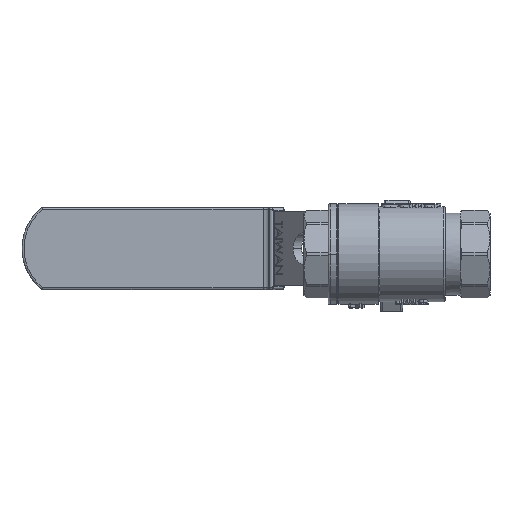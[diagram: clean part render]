
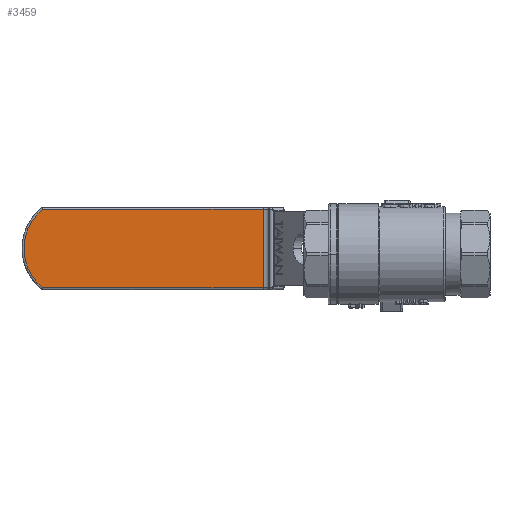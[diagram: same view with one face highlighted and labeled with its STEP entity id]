
A CAD part, front view. The second image highlights one B-rep face of the part: STEP entity #3459.
In plain terms, the highlighted planar face has unit normal (0, -1, 0).
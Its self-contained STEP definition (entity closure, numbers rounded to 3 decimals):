
#1959 = CARTESIAN_POINT ( 'NONE',  ( -4.515, -4., -10.5 ) ) ;
#2589 = LINE ( 'NONE', #52663, #45390 ) ;
#3459 = ADVANCED_FACE ( 'NONE', ( #7029 ), #67454, .F. ) ;
#5591 = EDGE_CURVE ( 'NONE', #31950, #50420, #55241, .T. ) ;
#7029 = FACE_OUTER_BOUND ( 'NONE', #87691, .T. ) ;
#7358 = AXIS2_PLACEMENT_3D ( 'NONE', #80922, #26892, #33778 ) ;
#7557 = DIRECTION ( 'NONE',  ( -1., 0., 0. ) ) ;
#8004 = AXIS2_PLACEMENT_3D ( 'NONE', #26008, #67173, #33181 ) ;
#8118 = CARTESIAN_POINT ( 'NONE',  ( -63.662, -4., 10. ) ) ;
#8981 = EDGE_CURVE ( 'NONE', #57398, #37674, #35876, .T. ) ;
#15329 = CARTESIAN_POINT ( 'NONE',  ( -63.662, -4., 10.5 ) ) ;
#20100 = CARTESIAN_POINT ( 'NONE',  ( -4.515, -4., 10.5 ) ) ;
#24079 = VECTOR ( 'NONE', #35656, 1000. ) ;
#26008 = CARTESIAN_POINT ( 'NONE',  ( -13., -4., 0. ) ) ;
#26892 = DIRECTION ( 'NONE',  ( 0., 1., 0. ) ) ;
#31950 = VERTEX_POINT ( 'NONE', #1959 ) ;
#33181 = DIRECTION ( 'NONE',  ( 0., 0., 1. ) ) ;
#33778 = DIRECTION ( 'NONE',  ( 0., 0., 1. ) ) ;
#34684 = ORIENTED_EDGE ( 'NONE', *, *, #44022, .T. ) ;
#35656 = DIRECTION ( 'NONE',  ( 0., 0., -1. ) ) ;
#35876 = LINE ( 'NONE', #8118, #24079 ) ;
#37674 = VERTEX_POINT ( 'NONE', #54131 ) ;
#40918 = CARTESIAN_POINT ( 'NONE',  ( -63.662, -4., 10.5 ) ) ;
#41092 = ORIENTED_EDGE ( 'NONE', *, *, #8981, .T. ) ;
#43351 = VECTOR ( 'NONE', #7557, 1000. ) ;
#44022 = EDGE_CURVE ( 'NONE', #50420, #57398, #71035, .T. ) ;
#45390 = VECTOR ( 'NONE', #52968, 1000. ) ;
#50420 = VERTEX_POINT ( 'NONE', #20100 ) ;
#52663 = CARTESIAN_POINT ( 'NONE',  ( -63.662, -4., -10.5 ) ) ;
#52968 = DIRECTION ( 'NONE',  ( 1., 0., 0. ) ) ;
#54131 = CARTESIAN_POINT ( 'NONE',  ( -63.662, -4., -10.5 ) ) ;
#55241 = CIRCLE ( 'NONE', #8004, 13.5 ) ;
#57280 = EDGE_CURVE ( 'NONE', #37674, #31950, #2589, .T. ) ;
#57398 = VERTEX_POINT ( 'NONE', #40918 ) ;
#67173 = DIRECTION ( 'NONE',  ( 0., -1., 0. ) ) ;
#67454 = PLANE ( 'NONE',  #7358 ) ;
#69744 = ORIENTED_EDGE ( 'NONE', *, *, #5591, .T. ) ;
#71035 = LINE ( 'NONE', #15329, #43351 ) ;
#78517 = ORIENTED_EDGE ( 'NONE', *, *, #57280, .T. ) ;
#80922 = CARTESIAN_POINT ( 'NONE',  ( -63.662, -4., 10. ) ) ;
#87691 = EDGE_LOOP ( 'NONE', ( #41092, #78517, #69744, #34684 ) ) ;
